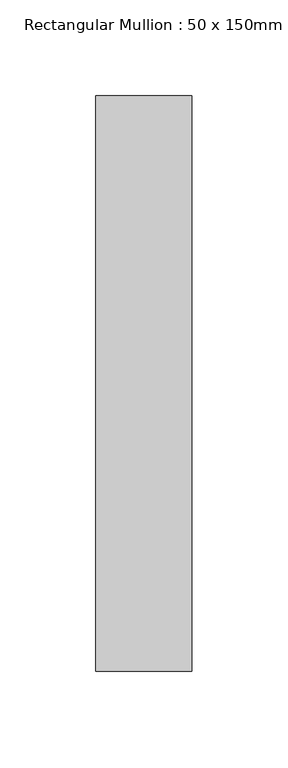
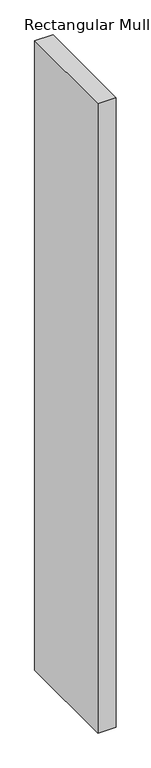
"""IFC4 building model written with IfcOpenShell, lengths in millimetres: member geometry, Rectangular Mullion : 50 x 150mm."""

from ifc_helpers import new_model, si_unit, frame, origin, place, context, project, spatial, polyline, outline, extrude, source, transform, mapped, element, save


def rectangular_mullion_50_x_150mm_db289e08(model_context):
    return source(origin(), model_context, "Body", "SweptSolid", [
        extrude(outline(polyline([(0.0, 175.0), (0.0, -125.0), (-50.0, -125.0), (-50.0, 175.0), (0.0, 175.0)])), frame((0.0, 0.0, -1820.0), z_axis=(0.0, 0.0, 1.0), x_axis=(1.0, 0.0, 0.0)), (0.0, 0.0, 1.0), 1820.0),
    ])


if __name__ == "__main__":
    model = new_model("IFC4")
    model_context = context("Model", 3, world=origin())
    ifc_project = project(units=[si_unit("LENGTHUNIT", "METRE", prefix="MILLI")], contexts=[model_context])
    site = spatial("IfcSite", under=ifc_project)
    building = spatial("IfcBuilding", under=site)
    placement = place(None, origin())
    rectangular_mullion_50_x_150mm_shape = rectangular_mullion_50_x_150mm_db289e08(model_context)
    element("IfcMember", 1, ObjectType="Rectangular Mullion : 50 x 150mm", at=placement, inside=building, context=model_context, shape_type="MappedRepresentation", body=[
        mapped(rectangular_mullion_50_x_150mm_shape, transform((0.0, 0.0, 0.0), x_axis=(1.0, 0.0, 0.0), y_axis=(0.0, 1.0, 0.0), z_axis=(0.0, 0.0, 1.0))),
    ])
    save(model, "model.ifc")
